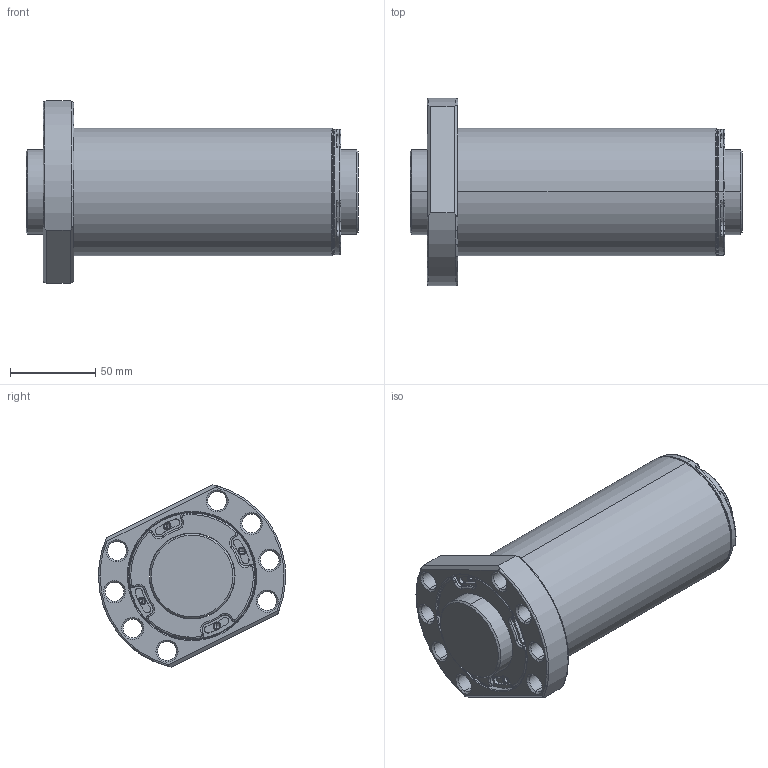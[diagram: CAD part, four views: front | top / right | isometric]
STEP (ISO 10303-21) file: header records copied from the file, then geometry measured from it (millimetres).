
FILE_DESCRIPTION (( 'STEP AP203' ), '1' );
FILE_NAME ('SFSR05050B1D-C.STEP', '2020-06-17T01:57:30', ( '' ), ( '' ), 'SwSTEP 2.0', 'SolidWorks 2013', '' );
FILE_SCHEMA (( 'CONFIG_CONTROL_DESIGN' ));
Length unit declared in the file: millimetre
Products named in the file (1): SFSR05050B1D-C
Bounding box: 195 x 109.93 x 107.22 mm (x, y, z)
Volume: 839603.7 mm3; surface area: 125571.5 mm2
Topology: 2 solids, 2 shells, 417 faces, 1021 edges, 619 vertices
Faces by surface type: cylinder 184, plane 85, torus 80, cone 68
Entity records: 14539 total; most frequent: CARTESIAN_POINT 4311, DIRECTION 2390, ORIENTED_EDGE 2010, AXIS2_PLACEMENT_3D 1036, EDGE_CURVE 1005, VERTEX_POINT 619, CIRCLE 618, EDGE_LOOP 464
